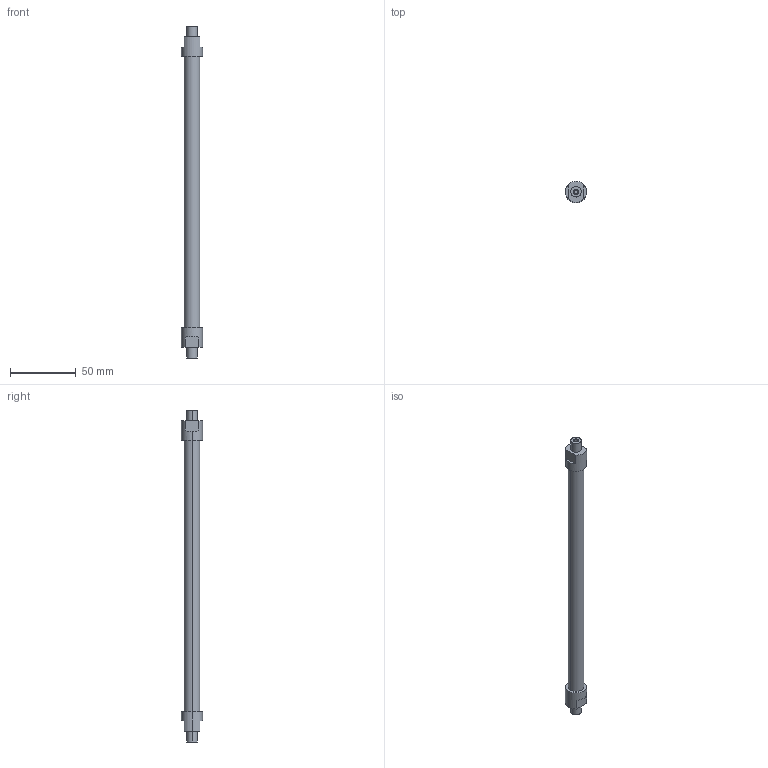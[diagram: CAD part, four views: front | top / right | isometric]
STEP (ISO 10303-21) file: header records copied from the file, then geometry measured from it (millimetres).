
FILE_DESCRIPTION(('STEP AP214'),'1');
FILE_NAME('ETT-R025G245.stp','2015-02-03T08:41:54',(' '),(' '),'Spatial InterOp 3D',' ',' ');
FILE_SCHEMA(('automotive_design'));
Length unit declared in the file: metre
Products named in the file (2): 1; 2
Bounding box: 16 x 16 x 252 mm (x, y, z)
Volume: 29459.5 mm3; surface area: 10606.5 mm2
Topology: 1 solids, 4 shells, 33 faces, 78 edges, 56 vertices
Faces by surface type: plane 17, cylinder 16
Entity records: 1292 total; most frequent: DIRECTION 192, CARTESIAN_POINT 169, ORIENTED_EDGE 144, AXIS2_PLACEMENT_3D 79, EDGE_CURVE 78, VERTEX_POINT 56, CIRCLE 44, EDGE_LOOP 40
